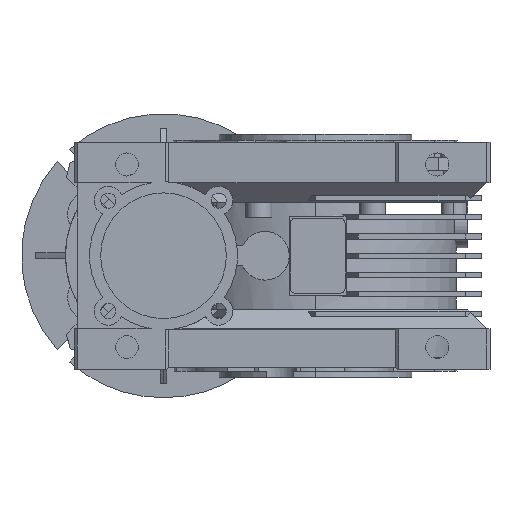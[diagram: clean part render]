
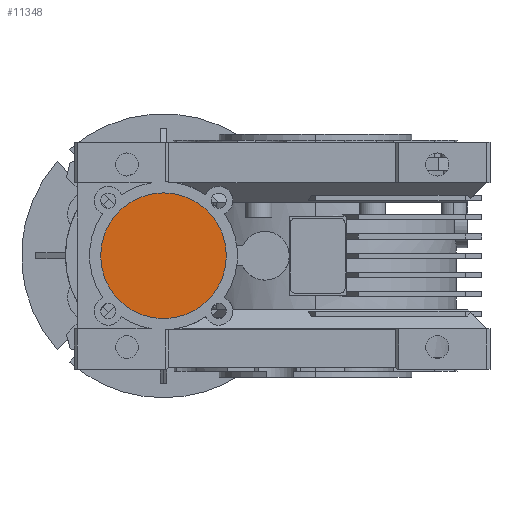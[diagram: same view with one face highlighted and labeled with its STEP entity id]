
A CAD part, left-side view. The second image highlights one B-rep face of the part: STEP entity #11348.
In plain terms, the highlighted planar face has unit normal (-1, 0, 0).
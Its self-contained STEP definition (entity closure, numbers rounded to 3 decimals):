
#11348 = ADVANCED_FACE ( 'NONE', ( #33201 ), #32658, .F. ) ;
#23188 = VERTEX_POINT ( 'NONE', #30482 ) ;
#23191 = VERTEX_POINT ( 'NONE', #30485 ) ;
#23376 = EDGE_LOOP ( 'NONE', ( #49234, #49235 ) ) ;
#25019 = CARTESIAN_POINT ( 'NONE',  ( -84.51, 75., 0. ) ) ;
#25020 = DIRECTION ( 'NONE',  ( -1., 0., 0. ) ) ;
#25021 = DIRECTION ( 'NONE',  ( 0., 0., 1. ) ) ;
#25367 = CIRCLE ( 'NONE', #27721, 31. ) ;
#25858 = CIRCLE ( 'NONE', #27815, 31. ) ;
#26637 = CARTESIAN_POINT ( 'NONE',  ( -84.51, 75., 0. ) ) ;
#26638 = DIRECTION ( 'NONE',  ( -1., 0., 0. ) ) ;
#26639 = DIRECTION ( 'NONE',  ( 0., 0., 1. ) ) ;
#27721 = AXIS2_PLACEMENT_3D ( 'NONE', #25019, #25020, #25021 ) ;
#27815 = AXIS2_PLACEMENT_3D ( 'NONE', #26637, #26638, #26639 ) ;
#30482 = CARTESIAN_POINT ( 'NONE',  ( -84.51, 75., -31. ) ) ;
#30485 = CARTESIAN_POINT ( 'NONE',  ( -84.51, 75., 31. ) ) ;
#31425 = AXIS2_PLACEMENT_3D ( 'NONE', #32678, #32679, #32680 ) ;
#32658 = PLANE ( 'NONE',  #31425 ) ;
#32678 = CARTESIAN_POINT ( 'NONE',  ( -84.51, 90.5, 0. ) ) ;
#32679 = DIRECTION ( 'NONE',  ( 1., 0., 0. ) ) ;
#32680 = DIRECTION ( 'NONE',  ( 0., 0., -1. ) ) ;
#33201 = FACE_OUTER_BOUND ( 'NONE', #23376, .T. ) ;
#48698 = EDGE_CURVE ( 'NONE', #23188, #23191, #25367, .T. ) ;
#49011 = EDGE_CURVE ( 'NONE', #23191, #23188, #25858, .T. ) ;
#49234 = ORIENTED_EDGE ( 'NONE', *, *, #49011, .T. ) ;
#49235 = ORIENTED_EDGE ( 'NONE', *, *, #48698, .T. ) ;
